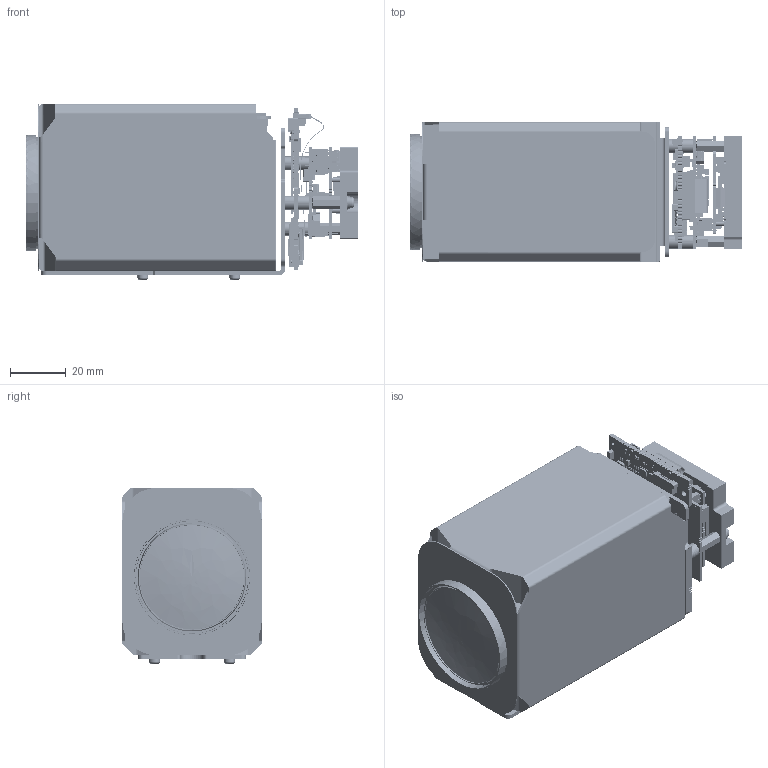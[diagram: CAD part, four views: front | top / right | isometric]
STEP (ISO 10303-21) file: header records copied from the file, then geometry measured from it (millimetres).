
FILE_DESCRIPTION( ( 'Unknown' ), '1' );
FILE_NAME( 'Q:/2003/Product3DCADModels/mm-ap29c01-0166-0101.stp', 'Unknown', ( 'Unknown' ), ( 'Unknown' ), 'PSStep 17.0.49', 'Unknown', ' ' );
FILE_SCHEMA( ( 'AUTOMOTIVE_DESIGN { 1 0 10303 214 1 1 1 1 }' ) );
Length unit declared in the file: millimetre
Products named in the file (689): Lead-7; Open_CASCADE_STEP_translator_6.8_1.2.1; Lead; Lead-3; Lead-4; Lead-2; Lead-1; Lead-5; Lead-6; MYBSP01201ABF_step_Pin1; MYBSP01201ABF_step; Body; 6453125152; Extruded; FRAME_RUG0010A; Open CASCADE STEP translator 6.8 16.15.1.1.1; Open CASCADE STEP translator 6.8 16.15.1.1.2; Open CASCADE STEP translator 6.8 16.15.1.1.3; Open CASCADE STEP translator 6.8 16.15.1.1.4; Open CASCADE STEP translator 6.8 16.15.1.1.5; Open CASCADE STEP translator 6.8 16.15.1.1.6; Open CASCADE STEP translator 6.8 16.15.1.1.7; Open CASCADE STEP translator 6.8 16.15.1.1.8; Open CASCADE STEP translator 6.8 16.15.1.1.9; Open CASCADE STEP translator 6.8 16.15.1.1.10; Open_CASCADE_STEP_translator_6.8_17.2.1; Pin_Shape; Open_CASCADE_STEP_translator_6.8_17.4.1; 5993357248; body; DEFAULT; DEFAULT-1; DEFAULT-2; RUG0010A; BODY_RUG0010A; C102; CAP-1210; C103; L3-20; DRC_(S-PVSON-N10)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
Assembly tree (1602 placements, depth 7):
  Assem1
    G-806-048H  x4
    flexi-01
    G-875-322T  x3
    G-106-321A  x3
    heatsink-0389-02
    G-977-016Z  x3
    G-915-068V  x3
    G-080-752R  x3
    EV9520L
    bracket-assy
      bracket-0378-02
      G-373-916V  x3
      G-513-075C  x3
    mm-ap29c02-0134-0301
      Board
        Open CASCADE STEP translator 7.5 3.1.1
      J5
        L3-1094
      Z10
        6993085408
          Extruded
      D3
        CD-HD2XL
          Body
          Pins
          Pins
          Pins
          Pins
      D2
        CD-HD2XL
          Body
          Pins
          Pins
          Pins
          Pins
      L11
        CR1608-0603
        CR1608-0603
        CR1608-0603
        CR1608-0603
      L9
        CR1608-0603
        CR1608-0603
        CR1608-0603
        CR1608-0603
      J7
        L3-1094
      J6
        L3-1094
      J4
        L3-1094
      D4
        RB161MM-20TR
        RB161MM-20TR
        RB161MM-20TR
      D1
        RB161MM-20TR
        RB161MM-20TR
        RB161MM-20TR
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Bounding box: 119.21 x 50 x 63.14 mm (x, y, z)
Volume: 276057.3 mm3; surface area: 70281.1 mm2
Topology: 1206 solids, 1207 shells, 19267 faces, 48572 edges, 31625 vertices
Faces by surface type: plane 16031, cylinder 2595, sphere 176, torus 163, revolution 140, cone 101, bspline 61
Full cylindrical faces by diameter (mm): 0.041 x1, 0.1 x184, 0.14 x1, 0.15 x1, 0.2 x2, 0.25 x1, 0.4 x2, 0.5 x1, 0.519 x1, 0.8 x8, 0.9 x8, 1 x1, 1.09 x1, 1.1 x2, 1.12 x2, 1.2 x2, 1.3 x2, 1.567 x3, 1.6 x4, 1.729 x8, 2 x12, 2.013 x4, 2.2 x50, 3.88 x7, 4.5 x3, 5 x10, 6 x1, 6.2 x2, 40.2 x1, 41.7 x1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
Entity records: 374214 total; most frequent: CARTESIAN_POINT 51315, DIRECTION 48568, ORIENTED_EDGE 46831, EDGE_CURVE 23416, LINE 19415, VECTOR 19415, VERTEX_POINT 15502, AXIS2_PLACEMENT_3D 14559
